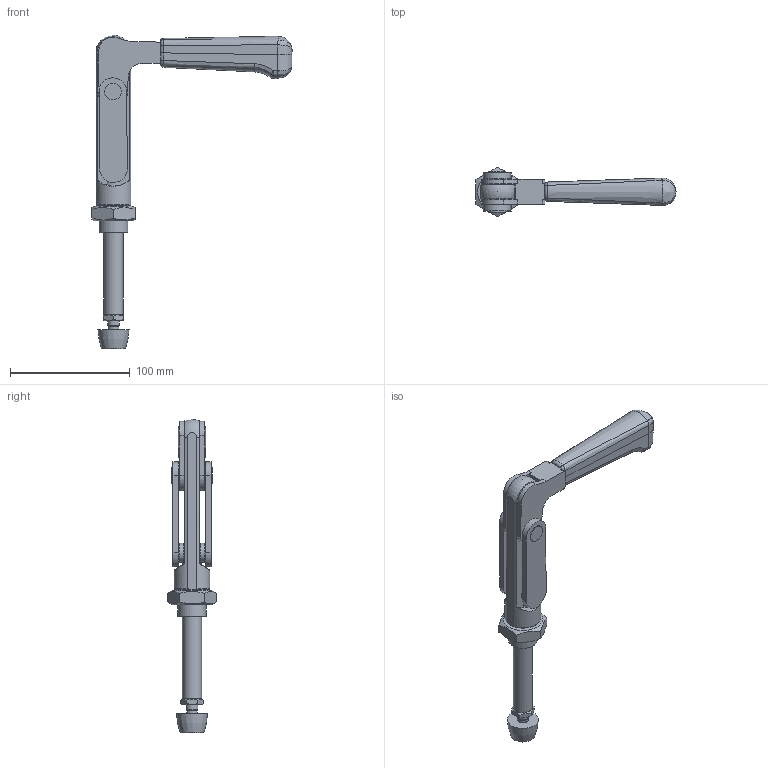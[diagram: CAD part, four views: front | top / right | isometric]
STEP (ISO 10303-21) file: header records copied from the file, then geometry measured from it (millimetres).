
FILE_DESCRIPTION((''),'2;1');
FILE_NAME('C:\Users\Hyperbook\Desktop\Konstrukcja\Nowa baza dociskow\049.3\049.3 Z.stp','2019-01-14T09:21:57',('Hyperbook'),(''),'Autodesk Inventor 2012','Autodesk Inventor 2012','');
FILE_SCHEMA(('AUTOMOTIVE_DESIGN { 1 0 10303 214 1 1 1 1 }'));
Length unit declared in the file: millimetre
Products named in the file (1): 049.3 Z
Bounding box: 167.18 x 41.57 x 261.79 mm (x, y, z)
Volume: 177043.7 mm3; surface area: 50619 mm2
Topology: 1 solids, 3 shells, 344 faces, 929 edges, 596 vertices
Faces by surface type: plane 165, bspline 102, cylinder 54, cone 16, torus 6, sphere 1
Full cylindrical faces by diameter (mm): 9.188 x1, 10 x2, 14 x4, 16 x3, 24 x2
Entity records: 12304 total; most frequent: CARTESIAN_POINT 4129, ORIENTED_EDGE 1780, DIRECTION 1289, EDGE_CURVE 890, VERTEX_POINT 589, VECTOR 461, LINE 461, AXIS2_PLACEMENT_3D 414
